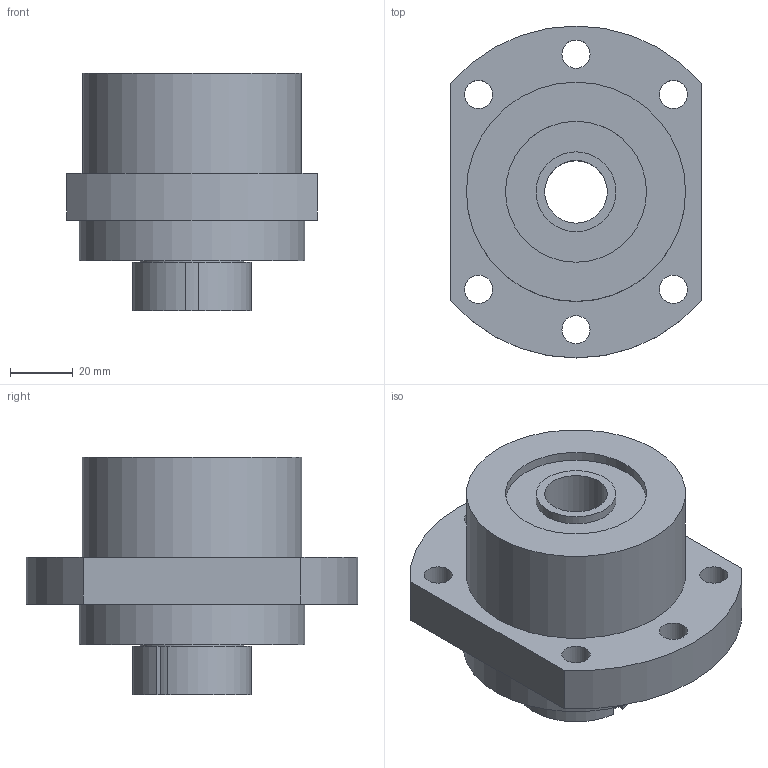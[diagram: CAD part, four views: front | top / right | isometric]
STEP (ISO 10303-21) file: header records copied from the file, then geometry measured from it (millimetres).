
FILE_DESCRIPTION(/* description */ (''),/* implementation_level */ '2;1');
FILE_NAME(/* name */ 'C:\Users\tenki620635\Desktop\官網\圖面\軸承座\3D\setp檔\WBK20 DF.stp',/* time_stamp */ '2020-12-21T10:02:03+08:00',/* author */ ('tenki620635'),/* organization */ (''),/* preprocessor_version */ 'ST-DEVELOPER v15.2',/* originating_system */ 'Autodesk Inventor 2014',/* authorisation */ '');
FILE_SCHEMA (('AUTOMOTIVE_DESIGN { 1 0 10303 214 3 1 1 }'));
Length unit declared in the file: millimetre
Products named in the file (1): WBK20 DF-Atype
Bounding box: 80 x 106 x 76 mm (x, y, z)
Volume: 266782.4 mm3; surface area: 41273.9 mm2
Topology: 1 solids, 1 shells, 52 faces, 108 edges, 72 vertices
Faces by surface type: cylinder 28, plane 24
Full cylindrical faces by diameter (mm): 9 x6, 14 x6, 20 x1, 25.5 x2, 33 x1, 45 x2, 70 x1, 72 x1
Entity records: 1357 total; most frequent: DIRECTION 250, CARTESIAN_POINT 213, ORIENTED_EDGE 176, AXIS2_PLACEMENT_3D 109, EDGE_LOOP 100, EDGE_CURVE 88, VERTEX_POINT 72, CIRCLE 56
